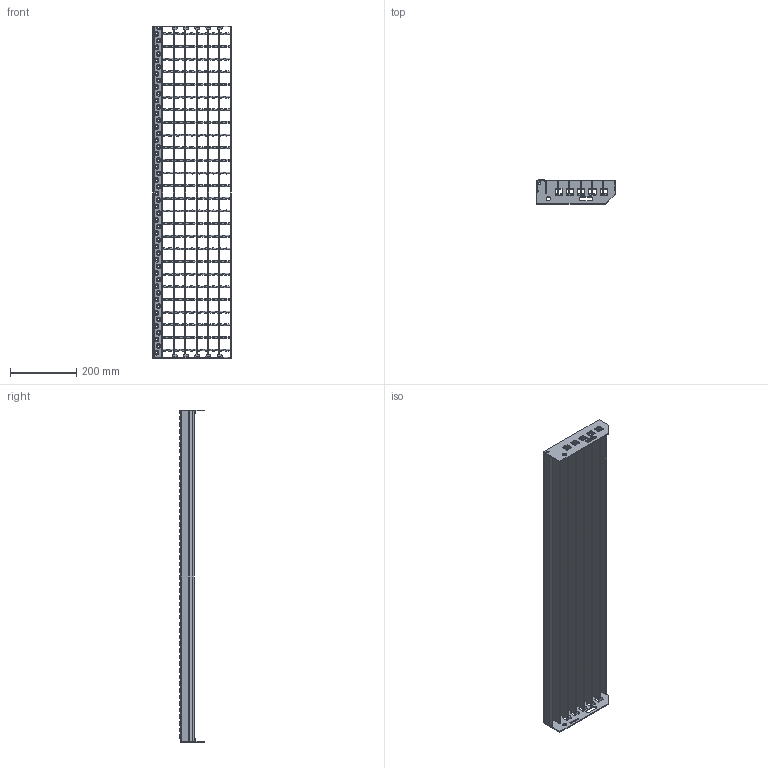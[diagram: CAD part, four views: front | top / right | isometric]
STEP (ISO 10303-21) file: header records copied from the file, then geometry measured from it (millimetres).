
FILE_DESCRIPTION(/* description */ ('','CAx-IF Rec.Pracs.---Representation and Presentation of Product Manufacturing Information (PMI)---3.8---2014-02-18'),/* implementation_level */ '2;1');
FILE_NAME(/* name */ 'C:\Users\phaverkotte\Desktop\Lager STEP\SP-Stufen\SP 340-34 38-3\SP 340-34 38-3 1000mm x240mm.stp',/* time_stamp */ '2018-03-24T11:53:11+01:00',/* author */ ('phaverkotte'),/* organization */ (''),/* preprocessor_version */ 'ST-DEVELOPER v16.13',/* originating_system */ 'Autodesk Inventor 2018',/* authorisation */ '');
FILE_SCHEMA (('AP242_MANAGED_MODEL_BASED_3D_ENGINEERING_MIM_LF { 1 0 10303 442 1 1 4 }'));
Length unit declared in the file: millimetre
Products named in the file (8): Stufe SP; Seitenplatte ausgeklinkt links; Seitenplatte 240 ausgeklinkt extern rechts; Schod nášlap; SP Rošt schodu; Nosny pas; Krouceny drat; Hinteres Flach
Assembly tree (37 placements, depth 3):
  Stufe SP
    Seitenplatte ausgeklinkt links
    Seitenplatte 240 ausgeklinkt extern rechts
    Schod nášlap
    SP Rošt schodu
      Nosny pas  x6
      Krouceny drat  x26
      Hinteres Flach
Bounding box: 236.98 x 72.75 x 1000 mm (x, y, z)
Volume: 1110695 mm3; surface area: 860606 mm2
Topology: 36 solids, 36 shells, 1128 faces, 3008 edges, 1969 vertices
Faces by surface type: plane 536, cylinder 268, cone 150, bspline 124, torus 50
Full cylindrical faces by diameter (mm): 8 x2, 13 x2
Entity records: 24724 total; most frequent: CARTESIAN_POINT 7655, DIRECTION 3464, ORIENTED_EDGE 3140, EDGE_CURVE 1570, AXIS2_PLACEMENT_3D 1236, VERTEX_POINT 1111, EDGE_LOOP 1035, LINE 992
